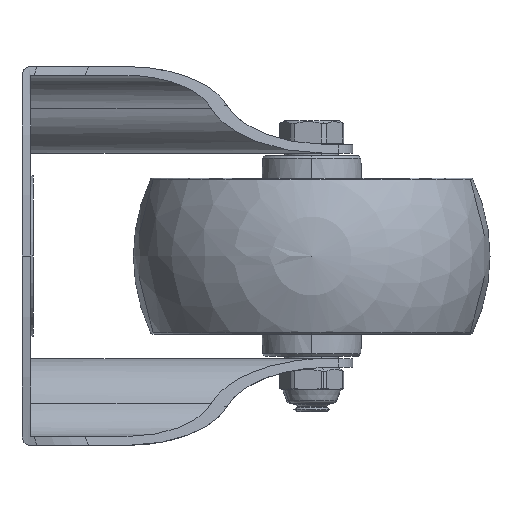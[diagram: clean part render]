
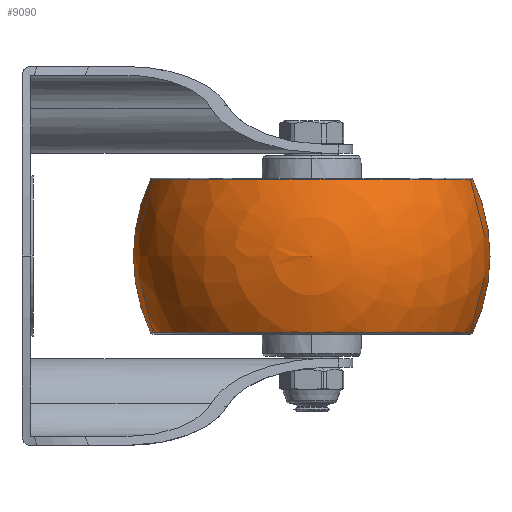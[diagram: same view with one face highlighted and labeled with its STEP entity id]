
A CAD part, left-side view. The second image highlights one B-rep face of the part: STEP entity #9090.
In plain terms, the highlighted spherical face has radius 40 mm.
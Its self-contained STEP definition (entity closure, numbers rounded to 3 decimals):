
#184 = ORIENTED_EDGE ( 'NONE', *, *, #251, .T. ) ;
#251 = EDGE_CURVE ( 'NONE', #5579, #5916, #3965, .T. ) ;
#803 = CARTESIAN_POINT ( 'NONE',  ( 0., 36.106, -17.215 ) ) ;
#893 = CARTESIAN_POINT ( 'NONE',  ( 0., 0., -17.215 ) ) ;
#1097 = CARTESIAN_POINT ( 'NONE',  ( 0., 0., 0. ) ) ;
#1128 = DIRECTION ( 'NONE',  ( 1., 0., 0. ) ) ;
#1691 = EDGE_CURVE ( 'NONE', #5579, #8241, #2918, .T. ) ;
#1989 = DIRECTION ( 'NONE',  ( 0., -1., 0. ) ) ;
#2231 = CIRCLE ( 'NONE', #8229, 36.106 ) ;
#2292 = DIRECTION ( 'NONE',  ( 1., 0., 0. ) ) ;
#2368 = DIRECTION ( 'NONE',  ( 0., 0., -1. ) ) ;
#2671 = DIRECTION ( 'NONE',  ( -1., 0., 0. ) ) ;
#2918 = CIRCLE ( 'NONE', #9476, 40. ) ;
#2923 = ORIENTED_EDGE ( 'NONE', *, *, #11035, .T. ) ;
#3500 = CIRCLE ( 'NONE', #10054, 36.106 ) ;
#3632 = ORIENTED_EDGE ( 'NONE', *, *, #1691, .F. ) ;
#3965 = CIRCLE ( 'NONE', #11084, 36.106 ) ;
#4203 = CARTESIAN_POINT ( 'NONE',  ( -36.106, 0., -17.215 ) ) ;
#4504 = EDGE_CURVE ( 'NONE', #5940, #5918, #2231, .T. ) ;
#4542 = DIRECTION ( 'NONE',  ( 1., 0., 0. ) ) ;
#4633 = EDGE_LOOP ( 'NONE', ( #184, #8808, #5821, #9836, #2923, #3632 ) ) ;
#4658 = EDGE_CURVE ( 'NONE', #5037, #5940, #11419, .T. ) ;
#4719 = CARTESIAN_POINT ( 'NONE',  ( 0., 36.106, 17.215 ) ) ;
#5037 = VERTEX_POINT ( 'NONE', #6269 ) ;
#5089 = CARTESIAN_POINT ( 'NONE',  ( 0., -36.106, 17.215 ) ) ;
#5308 = CARTESIAN_POINT ( 'NONE',  ( 0., 0., 0. ) ) ;
#5459 = SPHERICAL_SURFACE ( 'NONE', #8453, 40. ) ;
#5508 = DIRECTION ( 'NONE',  ( 0., 1., 0. ) ) ;
#5579 = VERTEX_POINT ( 'NONE', #803 ) ;
#5821 = ORIENTED_EDGE ( 'NONE', *, *, #4658, .T. ) ;
#5916 = VERTEX_POINT ( 'NONE', #4203 ) ;
#5918 = VERTEX_POINT ( 'NONE', #6292 ) ;
#5940 = VERTEX_POINT ( 'NONE', #5089 ) ;
#5945 = DIRECTION ( 'NONE',  ( -1., 0., 0. ) ) ;
#6269 = CARTESIAN_POINT ( 'NONE',  ( 0., -36.106, -17.215 ) ) ;
#6292 = CARTESIAN_POINT ( 'NONE',  ( -36.106, 0., 17.215 ) ) ;
#6346 = DIRECTION ( 'NONE',  ( 0., 0., 1. ) ) ;
#6473 = DIRECTION ( 'NONE',  ( 0., 0., -1. ) ) ;
#6489 = CIRCLE ( 'NONE', #8758, 36.106 ) ;
#6690 = CARTESIAN_POINT ( 'NONE',  ( 0., 0., -17.215 ) ) ;
#6697 = CARTESIAN_POINT ( 'NONE',  ( 0., 0., 0. ) ) ;
#7627 = DIRECTION ( 'NONE',  ( 0., 0., 1. ) ) ;
#8229 = AXIS2_PLACEMENT_3D ( 'NONE', #10471, #2368, #5945 ) ;
#8241 = VERTEX_POINT ( 'NONE', #4719 ) ;
#8264 = DIRECTION ( 'NONE',  ( -1., 0., 0. ) ) ;
#8453 = AXIS2_PLACEMENT_3D ( 'NONE', #1097, #8264, #5508 ) ;
#8478 = CARTESIAN_POINT ( 'NONE',  ( 0., 0., 17.215 ) ) ;
#8758 = AXIS2_PLACEMENT_3D ( 'NONE', #6690, #7627, #2292 ) ;
#8808 = ORIENTED_EDGE ( 'NONE', *, *, #11480, .T. ) ;
#9090 = ADVANCED_FACE ( 'NONE', ( #10088 ), #5459, .T. ) ;
#9229 = DIRECTION ( 'NONE',  ( 0., 0., -1. ) ) ;
#9239 = DIRECTION ( 'NONE',  ( -1., 0., 0. ) ) ;
#9476 = AXIS2_PLACEMENT_3D ( 'NONE', #6697, #1128, #9229 ) ;
#9836 = ORIENTED_EDGE ( 'NONE', *, *, #4504, .T. ) ;
#10054 = AXIS2_PLACEMENT_3D ( 'NONE', #8478, #6473, #9239 ) ;
#10088 = FACE_OUTER_BOUND ( 'NONE', #4633, .T. ) ;
#10300 = AXIS2_PLACEMENT_3D ( 'NONE', #5308, #2671, #1989 ) ;
#10471 = CARTESIAN_POINT ( 'NONE',  ( 0., 0., 17.215 ) ) ;
#11035 = EDGE_CURVE ( 'NONE', #5918, #8241, #3500, .T. ) ;
#11084 = AXIS2_PLACEMENT_3D ( 'NONE', #893, #6346, #4542 ) ;
#11419 = CIRCLE ( 'NONE', #10300, 40. ) ;
#11480 = EDGE_CURVE ( 'NONE', #5916, #5037, #6489, .T. ) ;
